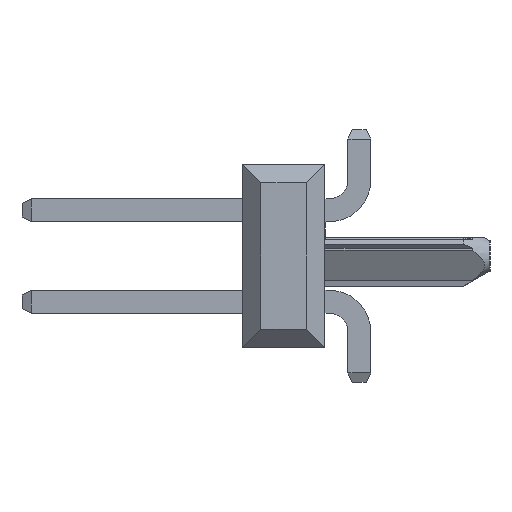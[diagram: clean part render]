
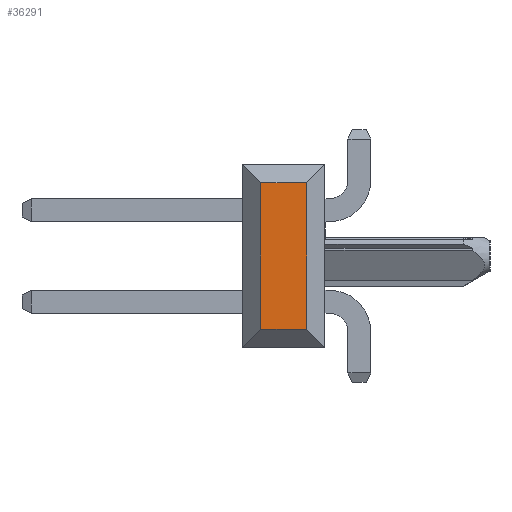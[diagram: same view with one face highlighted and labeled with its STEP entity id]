
A CAD part, left-side view. The second image highlights one B-rep face of the part: STEP entity #36291.
In plain terms, the highlighted planar face has unit normal (-1, 0, 0).
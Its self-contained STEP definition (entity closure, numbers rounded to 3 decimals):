
#12553=DIRECTION('',(0.,0.,1.));
#12554=VECTOR('',#12553,4.064);
#12555=CARTESIAN_POINT('',(-29.21,-0.635,-2.032));
#12556=LINE('',#12555,#12554);
#12565=DIRECTION('',(0.,0.,1.));
#12566=VECTOR('',#12565,4.064);
#12567=CARTESIAN_POINT('',(-29.21,0.635,-2.032));
#12568=LINE('',#12567,#12566);
#12569=DIRECTION('',(0.,-1.,0.));
#12570=VECTOR('',#12569,1.27);
#12571=CARTESIAN_POINT('',(-29.21,0.635,2.032));
#12572=LINE('',#12571,#12570);
#12573=DIRECTION('',(0.,-1.,0.));
#12574=VECTOR('',#12573,1.27);
#12575=CARTESIAN_POINT('',(-29.21,0.635,-2.032));
#12576=LINE('',#12575,#12574);
#12625=CARTESIAN_POINT('',(-29.21,0.635,-2.032));
#12626=CARTESIAN_POINT('',(-29.21,0.635,2.032));
#12627=VERTEX_POINT('',#12625);
#12628=VERTEX_POINT('',#12626);
#12629=CARTESIAN_POINT('',(-29.21,-0.635,-2.032));
#12630=CARTESIAN_POINT('',(-29.21,-0.635,2.032));
#12631=VERTEX_POINT('',#12629);
#12632=VERTEX_POINT('',#12630);
#36277=CARTESIAN_POINT('',(-29.21,0.635,-2.54));
#36278=DIRECTION('',(-1.,0.,0.));
#36279=DIRECTION('',(0.,-1.,0.));
#36280=AXIS2_PLACEMENT_3D('',#36277,#36278,#36279);
#36281=PLANE('',#36280);
#36283=ORIENTED_EDGE('',*,*,#36282,.T.);
#36285=ORIENTED_EDGE('',*,*,#36284,.T.);
#36286=ORIENTED_EDGE('',*,*,#36267,.F.);
#36288=ORIENTED_EDGE('',*,*,#36287,.F.);
#36289=EDGE_LOOP('',(#36283,#36285,#36286,#36288));
#36290=FACE_OUTER_BOUND('',#36289,.F.);
#36291=ADVANCED_FACE('',(#36290),#36281,.T.);
#36267=EDGE_CURVE('',#12631,#12632,#12556,.T.);
#36282=EDGE_CURVE('',#12627,#12628,#12568,.T.);
#36284=EDGE_CURVE('',#12628,#12632,#12572,.T.);
#36287=EDGE_CURVE('',#12627,#12631,#12576,.T.);
